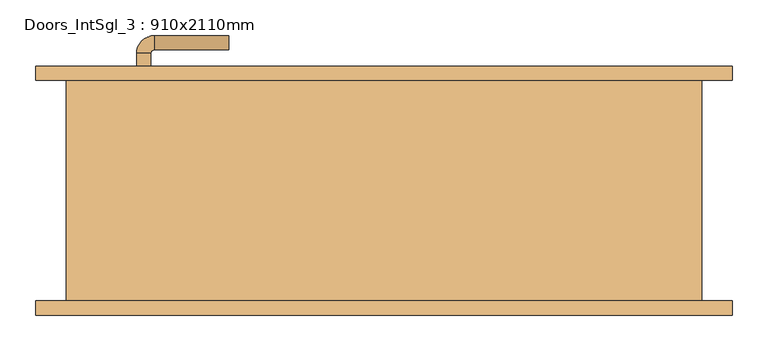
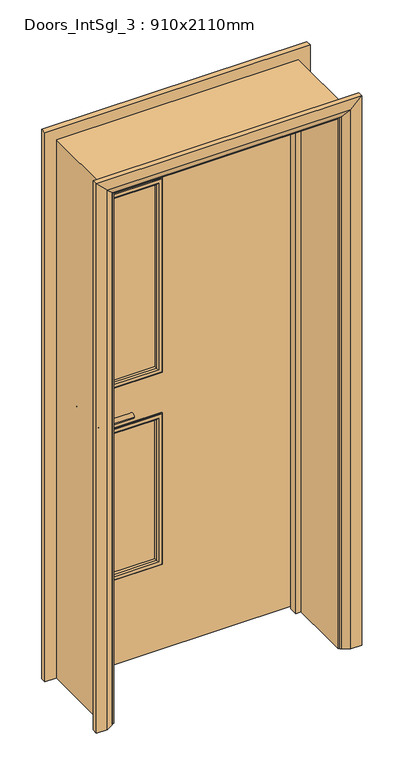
"""IFC4 building model written with IfcOpenShell, lengths in millimetres: door geometry, Doors_IntSgl_3 : 910x2110mm."""

from ifc_helpers import new_model, si_unit, point, frame, frame_2d, origin, place, context, project, spatial, polyline, circle_curve, ellipse_curve, trimmed, segment, composite_curve, outline, extrude, faceted_brep, source, transform, mapped, element, save
from ifc_brep_helpers import plane_surface, cylinder_surface, revolved_surface, advanced_brep


def doors_intsgl_3_910x2110mm_ed6625c4(model_context):
    return source(origin(), model_context, "Body", "SolidModel", [
        advanced_brep(
        [(-348.0, 109.0, 1000.0), (-328.0, 109.0, 1000.0), (-328.0, 79.0, 1000.0), (-348.0, 79.0, 1000.0), (-323.0, 74.0, 1000.0), (-323.0, 54.0, 1000.0), (-218.0, 54.0, 1000.0), (-218.0, 74.0, 1000.0)],
        [
            (0, 1, circle_curve(frame((-338.0, 109.0, 1000.0), z_axis=(0.0, 1.0, 0.0), x_axis=(1.0, 0.0, 0.0)), 10.0)),
            (1, 0, circle_curve(frame((-338.0, 109.0, 1000.0), z_axis=(0.0, 1.0, 0.0), x_axis=(1.0, 0.0, 0.0)), 10.0)),
            (1, 2),
            (2, 3, circle_curve(frame((-338.0, 79.0, 1000.0), z_axis=(0.0, 1.0, 0.0), x_axis=(1.0, 0.0, 0.0)), 10.0)),
            (3, 0),
            (3, 2, circle_curve(frame((-338.0, 79.0, 1000.0), z_axis=(0.0, 1.0, 0.0), x_axis=(1.0, 0.0, 0.0)), 10.0)),
            (4, 5, circle_curve(frame((-323.0, 64.0, 1000.0), z_axis=(-1.0, 0.0, 0.0), x_axis=(0.0, 1.0, 0.0)), 10.0)),
            (5, 3, circle_curve(frame((-323.0, 79.0, 1000.0), z_axis=(0.0, 0.0, -1.0), x_axis=(-1.0, 0.0, 0.0)), 25.0)),
            (2, 4, circle_curve(frame((-323.0, 79.0, 1000.0), z_axis=(0.0, 0.0, 1.0), x_axis=(-1.0, 0.0, 0.0)), 5.0)),
            (5, 4, circle_curve(frame((-323.0, 64.0, 1000.0), z_axis=(-1.0, 0.0, 0.0), x_axis=(0.0, 1.0, 0.0)), 10.0)),
            (6, 7, circle_curve(frame((-218.0, 64.0, 1000.0), z_axis=(1.0, 0.0, 0.0), x_axis=(0.0, 1.0, 0.0)), 10.0)),
            (7, 6, circle_curve(frame((-218.0, 64.0, 1000.0), z_axis=(1.0, 0.0, 0.0), x_axis=(0.0, 1.0, 0.0)), 10.0)),
            (4, 7),
            (6, 5),
        ],
        [
            plane_surface(frame((-338.0, 109.0, 1000.0), z_axis=(0.0, 1.0, 0.0), x_axis=(0.0, 0.0, 1.0))),
            cylinder_surface(frame((-338.0, 109.0, 1000.0), z_axis=(0.0, 1.0, 0.0), x_axis=(1.0, 0.0, 0.0)), 10.0),
            revolved_surface(trimmed(ellipse_curve(frame((-338.0, 79.0, 1000.0), z_axis=(0.0, -1.0, 0.0), x_axis=(1.0, 0.0, 0.0)), 10.0, 10.0), [point((-348.0, 79.0, 1000.0))], [point((-328.0, 79.0, 1000.0))], True, "CARTESIAN"), (-323.0, 79.0, 1000.0), (0.0, 0.0, -1.0)),
            revolved_surface(trimmed(ellipse_curve(frame((-338.0, 79.0, 1000.0), z_axis=(0.0, -1.0, 0.0), x_axis=(1.0, 0.0, 0.0)), 10.0, 10.0), [point((-328.0, 79.0, 1000.0))], [point((-348.0, 79.0, 1000.0))], True, "CARTESIAN"), (-323.0, 79.0, 1000.0), (0.0, 0.0, -1.0)),
            plane_surface(frame((-218.0, 64.0, 1000.0), z_axis=(1.0, 0.0, 0.0), x_axis=(0.0, 0.0, 1.0))),
            cylinder_surface(frame((-323.0, 64.0, 1000.0), z_axis=(-1.0, 0.0, 0.0), x_axis=(0.0, 1.0, 0.0)), 10.0),
        ],
        [
            (0, [[1, 2]]),
            (1, [[3, 4, 5, -2]]),
            (1, [[-5, 6, -3, -1]]),
            (2, [[7, 8, -4, 9]]),
            (3, [[10, -9, -6, -8]]),
            (4, [[11, 12]]),
            (5, [[13, -11, 14, -7]]),
            (5, [[-14, -12, -13, -10]]),
        ],
    ),
        extrude(outline(composite_curve([segment(trimmed(circle_curve(frame_2d((1000.0, -340.5)), 30.0), [point((1000.0, -370.5))], [point((1000.0, -310.5))], False, "CARTESIAN"), True, "CONTINUOUS"), segment(trimmed(circle_curve(frame_2d((1000.0, -340.5)), 30.0), [point((1000.0, -310.5))], [point((1000.0, -370.5))], False, "CARTESIAN"), True, "CONTINUOUS")], self_intersect=False)), frame((0.0, 109.0, 0.0), z_axis=(0.0, 1.0, 0.0), x_axis=(0.0, 0.0, 1.0)), (0.0, 0.0, 1.0), 8.0),
        advanced_brep(
        [(-348.0, 163.0, 1000.0), (-328.0, 163.0, 1000.0), (-348.0, 193.0, 1000.0), (-328.0, 193.0, 1000.0), (-323.0, 198.0, 1000.0), (-323.0, 218.0, 1000.0), (-218.0, 218.0, 1000.0), (-218.0, 198.0, 1000.0)],
        [
            (0, 1, circle_curve(frame((-338.0, 163.0, 1000.0), z_axis=(0.0, -1.0, 0.0), x_axis=(1.0, 0.0, 0.0)), 10.0)),
            (1, 0, circle_curve(frame((-338.0, 163.0, 1000.0), z_axis=(0.0, -1.0, 0.0), x_axis=(1.0, 0.0, 0.0)), 10.0)),
            (0, 2),
            (2, 3, circle_curve(frame((-338.0, 193.0, 1000.0), z_axis=(0.0, -1.0, 0.0), x_axis=(1.0, 0.0, 0.0)), 10.0)),
            (3, 1),
            (3, 2, circle_curve(frame((-338.0, 193.0, 1000.0), z_axis=(0.0, -1.0, 0.0), x_axis=(1.0, 0.0, 0.0)), 10.0)),
            (4, 3, circle_curve(frame((-323.0, 193.0, 1000.0), z_axis=(0.0, 0.0, 1.0), x_axis=(-1.0, 0.0, 0.0)), 5.0)),
            (2, 5, circle_curve(frame((-323.0, 193.0, 1000.0), z_axis=(0.0, 0.0, -1.0), x_axis=(-1.0, 0.0, 0.0)), 25.0)),
            (5, 4, circle_curve(frame((-323.0, 208.0, 1000.0), z_axis=(-1.0, 0.0, 0.0), x_axis=(0.0, -1.0, 0.0)), 10.0)),
            (4, 5, circle_curve(frame((-323.0, 208.0, 1000.0), z_axis=(-1.0, 0.0, 0.0), x_axis=(0.0, -1.0, 0.0)), 10.0)),
            (6, 7, circle_curve(frame((-218.0, 208.0, 1000.0), z_axis=(1.0, 0.0, 0.0), x_axis=(0.0, -1.0, 0.0)), 10.0)),
            (7, 6, circle_curve(frame((-218.0, 208.0, 1000.0), z_axis=(1.0, 0.0, 0.0), x_axis=(0.0, -1.0, 0.0)), 10.0)),
            (5, 6),
            (7, 4),
        ],
        [
            plane_surface(frame((-338.0, 163.0, 1000.0), z_axis=(0.0, -1.0, 0.0), x_axis=(0.0, 0.0, 1.0))),
            cylinder_surface(frame((-338.0, 163.0, 1000.0), z_axis=(0.0, -1.0, 0.0), x_axis=(1.0, 0.0, 0.0)), 10.0),
            revolved_surface(trimmed(ellipse_curve(frame((-338.0, 193.0, 1000.0), z_axis=(0.0, -1.0, 0.0), x_axis=(1.0, 0.0, 0.0)), 10.0, 10.0), [point((-348.0, 193.0, 1000.0))], [point((-328.0, 193.0, 1000.0))], True, "CARTESIAN"), (-323.0, 193.0, 1000.0), (0.0, 0.0, -1.0)),
            revolved_surface(trimmed(ellipse_curve(frame((-338.0, 193.0, 1000.0), z_axis=(0.0, -1.0, 0.0), x_axis=(1.0, 0.0, 0.0)), 10.0, 10.0), [point((-328.0, 193.0, 1000.0))], [point((-348.0, 193.0, 1000.0))], True, "CARTESIAN"), (-323.0, 193.0, 1000.0), (0.0, 0.0, -1.0)),
            plane_surface(frame((-218.0, 208.0, 1000.0), z_axis=(1.0, 0.0, 0.0), x_axis=(0.0, 0.0, 1.0))),
            cylinder_surface(frame((-323.0, 208.0, 1000.0), z_axis=(-1.0, 0.0, 0.0), x_axis=(0.0, -1.0, 0.0)), 10.0),
        ],
        [
            (0, [[1, 2]]),
            (1, [[-1, 3, 4, 5]]),
            (1, [[-2, -5, 6, -3]]),
            (2, [[7, -4, 8, 9]]),
            (3, [[-8, -6, -7, 10]]),
            (4, [[11, 12]]),
            (5, [[-9, 13, -12, 14]]),
            (5, [[-10, -14, -11, -13]]),
        ],
    ),
        extrude(outline(composite_curve([segment(trimmed(circle_curve(frame_2d((1000.0, -340.5)), 30.0), [point((1000.0, -370.5))], [point((1000.0, -310.5))], False, "CARTESIAN"), True, "CONTINUOUS"), segment(trimmed(circle_curve(frame_2d((1000.0, -340.5)), 30.0), [point((1000.0, -310.5))], [point((1000.0, -370.5))], False, "CARTESIAN"), True, "CONTINUOUS")], self_intersect=False)), frame((0.0, 155.0, 0.0), z_axis=(0.0, 1.0, 0.0), x_axis=(0.0, 0.0, 1.0)), (0.0, 0.0, 1.0), 8.0),
        extrude(outline(polyline([(2068.0, -413.0), (8.0, -413.0), (8.0, 413.0), (2068.0, 413.0), (2068.0, -413.0)]), holes=[polyline([(1843.0, -88.0), (1100.0, -88.0), (1100.0, -288.0), (1843.0, -288.0), (1843.0, -88.0)]), polyline([(925.0, -288.0), (925.0, -88.0), (350.0, -88.0), (350.0, -288.0), (925.0, -288.0)])]), frame((0.0, 117.0, 0.0), z_axis=(0.0, 1.0, 0.0), x_axis=(0.0, 0.0, 1.0)), (0.0, 0.0, 1.0), 38.0),
        advanced_brep(
        [(490.0, 175.0, 0.0), (490.0, 155.0, 0.0), (420.0, 155.0, 0.0), (424.0, 161.0, 0.0), (450.0, 175.0, 0.0), (490.0, 175.0, 2145.0), (490.0, 155.0, 2145.0), (-490.0, 155.0, 2145.0), (-490.0, 155.0, 0.0), (-420.0, 155.0, 0.0), (-420.0, 155.0, 2075.0), (420.0, 155.0, 2075.0), (424.0, 161.0, 2079.0), (450.0, 175.0, 2105.0), (-450.0, 175.0, 2105.0), (-450.0, 175.0, 0.0), (-490.0, 175.0, 0.0), (-490.0, 175.0, 2145.0), (-424.0, 161.0, 0.0), (-424.0, 161.0, 2079.0)],
        [
            (0, 1),
            (1, 2),
            (2, 3, circle_curve(frame((428.0, 154.0, 0.0), z_axis=(0.0, 0.0, -1.0), x_axis=(1.0, 0.0, 0.0)), 8.0622577)),
            (3, 4),
            (4, 0),
            (0, 5),
            (5, 6),
            (6, 1),
            (6, 7),
            (7, 8),
            (8, 9),
            (9, 10),
            (10, 11),
            (11, 2),
            (11, 12, ellipse_curve(frame((428.0, 154.0, 2083.0), z_axis=(0.7071067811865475, 0.0, -0.7071067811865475), x_axis=(-0.7071067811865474, 0.0, -0.7071067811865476)), 11.4017543, 8.0622577)),
            (12, 3),
            (12, 13),
            (13, 4),
            (13, 14),
            (14, 15),
            (15, 16),
            (16, 17),
            (17, 5),
            (7, 17),
            (16, 8),
            (15, 18),
            (18, 9, circle_curve(frame((-428.0, 154.0, 0.0), z_axis=(0.0, 0.0, -1.0), x_axis=(-1.0, 0.0, 0.0)), 8.0622577)),
            (19, 10, ellipse_curve(frame((-428.0, 154.0, 2083.0), z_axis=(-0.7071067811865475, 0.0, -0.7071067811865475), x_axis=(-0.7071067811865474, 0.0, 0.7071067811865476)), 11.4017543, 8.0622577)),
            (18, 19),
            (14, 19),
            (19, 12),
        ],
        [
            plane_surface(frame((420.0, 155.0, 0.0), z_axis=(0.0, 0.0, -1.0), x_axis=(0.0, -1.0, 0.0))),
            plane_surface(frame((490.0, 175.0, 0.0), z_axis=(1.0, 0.0, 0.0), x_axis=(0.0, 0.0, 1.0))),
            plane_surface(frame((490.0, 155.0, 0.0), z_axis=(0.0, -1.0, 0.0), x_axis=(0.0, 0.0, 1.0))),
            cylinder_surface(frame((428.0, 154.0, 0.0), z_axis=(0.0, 0.0, -1.0), x_axis=(1.0, 0.0, 0.0)), 8.0622577),
            plane_surface(frame((424.0, 161.0, 0.0), z_axis=(-0.4740998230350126, 0.8804710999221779, 0.0), x_axis=(0.0, 0.0, 1.0))),
            plane_surface(frame((450.0, 175.0, 0.0), z_axis=(0.0, 1.0, 0.0), x_axis=(0.0, 0.0, 1.0))),
            plane_surface(frame((-490.0, 175.0, 2145.0), z_axis=(-1.0, 0.0, 0.0), x_axis=(0.0, 0.0, -1.0))),
            plane_surface(frame((-420.0, 155.0, 0.0), z_axis=(0.0, 0.0, -1.0), x_axis=(0.0, -1.0, 0.0))),
            cylinder_surface(frame((-428.0, 154.0, 2075.0), z_axis=(0.0, 0.0, 1.0), x_axis=(-1.0, 0.0, 0.0)), 8.0622577),
            plane_surface(frame((-424.0, 161.0, 2079.0), z_axis=(0.4740998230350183, 0.8804710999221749, 0.0), x_axis=(0.0, 0.0, -1.0))),
            plane_surface(frame((490.0, 175.0, 2145.0), z_axis=(0.0, 0.0, 1.0), x_axis=(-1.0, 0.0, 0.0))),
            cylinder_surface(frame((420.0, 154.0, 2083.0), z_axis=(1.0, 0.0, 0.0), x_axis=(0.0, 0.0, 1.0)), 8.0622577),
            plane_surface(frame((424.0, 161.0, 2079.0), z_axis=(0.0, 0.8804710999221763, -0.4740998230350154), x_axis=(-1.0, 0.0, 0.0))),
        ],
        [
            (0, [[1, 2, 3, 4, 5]]),
            (1, [[-1, 6, 7, 8]]),
            (2, [[-2, -8, 9, 10, 11, 12, 13, 14]]),
            (3, [[-3, -14, 15, 16]]),
            (4, [[-4, -16, 17, 18]]),
            (5, [[-5, -18, 19, 20, 21, 22, 23, -6]]),
            (6, [[24, -22, 25, -10]]),
            (7, [[-21, 26, 27, -11, -25]]),
            (8, [[28, -12, -27, 29]]),
            (9, [[30, -29, -26, -20]]),
            (10, [[-7, -23, -24, -9]]),
            (11, [[-15, -13, -28, 31]]),
            (12, [[-17, -31, -30, -19]]),
        ],
    ),
        extrude(outline(polyline([(0.0, -415.0), (0.0, -396.0), (2051.0, -396.0), (2051.0, 396.0), (0.0, 396.0), (0.0, 415.0), (2070.0, 415.0), (2070.0, -415.0), (0.0, -415.0)])), frame((0.0, 83.0, 0.0), z_axis=(0.0, 1.0, 0.0), x_axis=(0.0, 0.0, 1.0)), (0.0, 0.0, 1.0), 32.0),
        advanced_brep(
        [(-490.0, -175.0, 0.0), (-490.0, -155.0, 0.0), (-420.0, -155.0, 0.0), (-424.0, -161.0, 0.0), (-450.0, -175.0, 0.0), (-490.0, -175.0, 2145.0), (-490.0, -155.0, 2145.0), (-420.0, -155.0, 2075.0), (-424.0, -161.0, 2079.0), (-450.0, -175.0, 2105.0), (490.0, -175.0, 0.0), (450.0, -175.0, 0.0), (424.0, -161.0, 0.0), (420.0, -155.0, 0.0), (490.0, -155.0, 0.0), (490.0, -175.0, 2145.0), (450.0, -175.0, 2105.0), (424.0, -161.0, 2079.0), (420.0, -155.0, 2075.0), (490.0, -155.0, 2145.0)],
        [
            (0, 1),
            (1, 2),
            (2, 3, circle_curve(frame((-428.0, -154.0, 0.0), z_axis=(0.0, 0.0, -1.0), x_axis=(-1.0, 0.0, 0.0)), 8.0622577)),
            (3, 4),
            (4, 0),
            (0, 5),
            (5, 6),
            (6, 1),
            (6, 7),
            (7, 2),
            (7, 8, ellipse_curve(frame((-428.0, -154.0, 2083.0), z_axis=(-0.7071067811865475, 0.0, -0.7071067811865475), x_axis=(0.7071067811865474, 0.0, -0.7071067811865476)), 11.4017543, 8.0622577)),
            (8, 3),
            (8, 9),
            (9, 4),
            (9, 5),
            (10, 11),
            (11, 12),
            (12, 13, circle_curve(frame((428.0, -154.0, 0.0), z_axis=(0.0, 0.0, -1.0), x_axis=(1.0, 0.0, 0.0)), 8.0622577)),
            (13, 14),
            (14, 10),
            (15, 16),
            (16, 11),
            (10, 15),
            (16, 17),
            (17, 12),
            (17, 18, ellipse_curve(frame((428.0, -154.0, 2083.0), z_axis=(0.7071067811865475, 0.0, -0.7071067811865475), x_axis=(0.7071067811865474, 0.0, 0.7071067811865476)), 11.4017543, 8.0622577)),
            (18, 13),
            (18, 19),
            (19, 14),
            (19, 15),
            (5, 15),
            (19, 6),
            (18, 7),
            (17, 8),
            (16, 9),
        ],
        [
            plane_surface(frame((-420.0, -227.8010989, 0.0), z_axis=(0.0, 0.0, -1.0), x_axis=(1.0, 0.0, 0.0))),
            plane_surface(frame((-490.0, -175.0, 0.0), z_axis=(-1.0, 0.0, 0.0), x_axis=(0.0, 0.0, 1.0))),
            plane_surface(frame((-490.0, -155.0, 0.0), z_axis=(0.0, 1.0, 0.0), x_axis=(0.0, 0.0, 1.0))),
            cylinder_surface(frame((-428.0, -154.0, 0.0), z_axis=(0.0, 0.0, -1.0), x_axis=(-1.0, 0.0, 0.0)), 8.0622577),
            plane_surface(frame((-424.0, -161.0, 0.0), z_axis=(0.4740998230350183, -0.8804710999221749, 0.0), x_axis=(0.0, 0.0, 1.0))),
            plane_surface(frame((-450.0, -175.0, 0.0), z_axis=(0.0, -1.0, 0.0), x_axis=(0.0, 0.0, 1.0))),
            plane_surface(frame((420.0, -227.8010989, 0.0), z_axis=(0.0, 0.0, -1.0), x_axis=(-1.0, 0.0, 0.0))),
            plane_surface(frame((450.0, -175.0, 2105.0), z_axis=(0.0, -1.0, 0.0), x_axis=(0.0, 0.0, -1.0))),
            plane_surface(frame((424.0, -161.0, 2079.0), z_axis=(-0.4740998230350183, -0.8804710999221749, 0.0), x_axis=(0.0, 0.0, -1.0))),
            cylinder_surface(frame((428.0, -154.0, 2075.0), z_axis=(0.0, 0.0, 1.0), x_axis=(1.0, 0.0, 0.0)), 8.0622577),
            plane_surface(frame((490.0, -155.0, 2145.0), z_axis=(0.0, 1.0, 0.0), x_axis=(0.0, 0.0, -1.0))),
            plane_surface(frame((490.0, -175.0, 2145.0), z_axis=(1.0, 0.0, 0.0), x_axis=(0.0, 0.0, -1.0))),
            plane_surface(frame((-490.0, -175.0, 2145.0), z_axis=(0.0, 0.0, 1.0), x_axis=(1.0, 0.0, 0.0))),
            plane_surface(frame((-490.0, -155.0, 2145.0), z_axis=(0.0, 1.0, 0.0), x_axis=(1.0, 0.0, 0.0))),
            cylinder_surface(frame((-420.0, -154.0, 2083.0), z_axis=(-1.0, 0.0, 0.0), x_axis=(0.0, 0.0, 1.0)), 8.0622577),
            plane_surface(frame((-424.0, -161.0, 2079.0), z_axis=(0.0, -0.8804710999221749, -0.4740998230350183), x_axis=(1.0, 0.0, 0.0))),
            plane_surface(frame((-450.0, -175.0, 2105.0), z_axis=(0.0, -1.0, 0.0), x_axis=(1.0, 0.0, 0.0))),
        ],
        [
            (0, [[1, 2, 3, 4, 5]]),
            (1, [[-1, 6, 7, 8]]),
            (2, [[-2, -8, 9, 10]]),
            (3, [[-3, -10, 11, 12]]),
            (4, [[-4, -12, 13, 14]]),
            (5, [[-5, -14, 15, -6]]),
            (6, [[16, 17, 18, 19, 20]]),
            (7, [[21, 22, -16, 23]]),
            (8, [[24, 25, -17, -22]]),
            (9, [[26, 27, -18, -25]]),
            (10, [[28, 29, -19, -27]]),
            (11, [[30, -23, -20, -29]]),
            (12, [[-7, 31, -30, 32]]),
            (13, [[-9, -32, -28, 33]]),
            (14, [[-11, -33, -26, 34]]),
            (15, [[-13, -34, -24, 35]]),
            (16, [[-15, -35, -21, -31]]),
        ],
    ),
        faceted_brep([(-415.0, 155.0, 0.0), (-415.0, -155.0, 0.0), (-447.0, -155.0, 0.0), (-447.0, 155.0, 0.0), (-415.0, 155.0, 2070.0), (-415.0, -155.0, 2070.0), (-447.0, -155.0, 2102.0), (-447.0, 155.0, 2102.0), (415.0, 155.0, 0.0), (447.0, 155.0, 0.0), (447.0, -155.0, 0.0), (415.0, -155.0, 0.0), (415.0, 155.0, 2070.0), (447.0, 155.0, 2102.0), (447.0, -155.0, 2102.0), (415.0, -155.0, 2070.0)], [[[0, 1, 2, 3]], [[1, 0, 4, 5]], [[2, 1, 5, 6]], [[3, 2, 6, 7]], [[0, 3, 7, 4]], [[8, 9, 10, 11]], [[12, 13, 9, 8]], [[13, 14, 10, 9]], [[14, 15, 11, 10]], [[15, 12, 8, 11]], [[5, 4, 12, 15]], [[6, 5, 15, 14]], [[7, 6, 14, 13]], [[4, 7, 13, 12]]]),
        advanced_brep(
        [(-88.0, 127.0, 925.0), (-88.0, 117.0, 925.0), (-88.0, 117.0, 350.0), (-88.0, 127.0, 350.0), (-100.0, 116.0, 913.0), (-100.0, 127.0, 913.0), (-100.0, 127.0, 362.0), (-100.0, 116.0, 362.0), (-95.0, 111.0, 918.0), (-95.0, 111.0, 357.0), (-80.0, 113.0, 933.0), (-82.0, 111.0, 931.0), (-82.0, 111.0, 344.0), (-80.0, 113.0, 342.0), (-80.0, 117.0, 933.0), (-80.0, 117.0, 342.0), (-288.0, 117.0, 350.0), (-288.0, 127.0, 350.0), (-276.0, 127.0, 362.0), (-276.0, 116.0, 362.0), (-281.0, 111.0, 357.0), (-294.0, 111.0, 344.0), (-296.0, 113.0, 342.0), (-296.0, 117.0, 342.0), (-288.0, 117.0, 925.0), (-288.0, 127.0, 925.0), (-276.0, 127.0, 913.0), (-276.0, 116.0, 913.0), (-281.0, 111.0, 918.0), (-294.0, 111.0, 931.0), (-296.0, 113.0, 933.0), (-296.0, 117.0, 933.0)],
        [
            (0, 1),
            (1, 2),
            (2, 3),
            (3, 0),
            (4, 5),
            (5, 6),
            (6, 7),
            (7, 4),
            (8, 4, ellipse_curve(frame((-95.0, 116.0, 918.0), z_axis=(0.7071067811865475, 0.0, -0.7071067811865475), x_axis=(0.7071067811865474, 0.0, 0.7071067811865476)), 7.0710678, 5.0)),
            (7, 9, ellipse_curve(frame((-95.0, 116.0, 357.0), z_axis=(0.7071067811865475, 0.0, 0.7071067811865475), x_axis=(-0.7071067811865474, 0.0, 0.7071067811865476)), 7.0710678, 5.0)),
            (9, 8),
            (10, 11, ellipse_curve(frame((-82.0, 113.0, 931.0), z_axis=(0.7071067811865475, 0.0, -0.7071067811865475), x_axis=(0.7071067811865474, 0.0, 0.7071067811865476)), 2.8284271, 2.0)),
            (11, 12),
            (12, 13, ellipse_curve(frame((-82.0, 113.0, 344.0), z_axis=(0.7071067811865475, 0.0, 0.7071067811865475), x_axis=(-0.7071067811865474, 0.0, 0.7071067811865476)), 2.8284271, 2.0)),
            (13, 10),
            (14, 10),
            (13, 15),
            (15, 14),
            (2, 16),
            (16, 17),
            (17, 3),
            (6, 18),
            (18, 19),
            (19, 7),
            (19, 20, ellipse_curve(frame((-281.0, 116.0, 357.0), z_axis=(0.7071067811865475, 0.0, -0.7071067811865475), x_axis=(0.7071067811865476, 0.0, 0.7071067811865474)), 7.0710678, 5.0)),
            (20, 9),
            (12, 21),
            (21, 22, ellipse_curve(frame((-294.0, 113.0, 344.0), z_axis=(0.7071067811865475, 0.0, -0.7071067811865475), x_axis=(0.7071067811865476, 0.0, 0.7071067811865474)), 2.8284271, 2.0)),
            (22, 13),
            (22, 23),
            (23, 15),
            (16, 24),
            (24, 25),
            (25, 17),
            (18, 26),
            (26, 27),
            (27, 19),
            (27, 28, ellipse_curve(frame((-281.0, 116.0, 918.0), z_axis=(-0.7071067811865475, 0.0, -0.7071067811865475), x_axis=(0.7071067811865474, 0.0, -0.7071067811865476)), 7.0710678, 5.0)),
            (28, 20),
            (21, 29),
            (29, 30, ellipse_curve(frame((-294.0, 113.0, 931.0), z_axis=(-0.7071067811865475, 0.0, -0.7071067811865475), x_axis=(0.7071067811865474, 0.0, -0.7071067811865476)), 2.8284271, 2.0)),
            (30, 22),
            (30, 31),
            (31, 23),
            (31, 14),
            (1, 24),
            (0, 25),
            (5, 26),
            (4, 27),
            (8, 28),
            (11, 29),
            (10, 30),
        ],
        [
            plane_surface(frame((-88.0, 117.0, 925.0), z_axis=(1.0, 0.0, 0.0), x_axis=(0.0, 0.0, -1.0))),
            plane_surface(frame((-100.0, 127.0, 913.0), z_axis=(-1.0, 0.0, 0.0), x_axis=(0.0, 0.0, -1.0))),
            cylinder_surface(frame((-95.0, 116.0, 925.0), z_axis=(0.0, 0.0, 1.0), x_axis=(1.0, 0.0, 0.0)), 5.0),
            cylinder_surface(frame((-82.0, 113.0, 925.0), z_axis=(0.0, 0.0, 1.0), x_axis=(1.0, 0.0, 0.0)), 2.0),
            plane_surface(frame((-80.0, 113.0, 933.0), z_axis=(1.0, 0.0, 0.0), x_axis=(0.0, 0.0, -1.0))),
            plane_surface(frame((-88.0, 117.0, 350.0), z_axis=(0.0, 0.0, -1.0), x_axis=(-1.0, 0.0, 0.0))),
            plane_surface(frame((-100.0, 127.0, 362.0), z_axis=(0.0, 0.0, 1.0), x_axis=(-1.0, 0.0, 0.0))),
            cylinder_surface(frame((-88.0, 116.0, 357.0), z_axis=(1.0, 0.0, 0.0), x_axis=(0.0, 0.0, -1.0)), 5.0),
            cylinder_surface(frame((-88.0, 113.0, 344.0), z_axis=(1.0, 0.0, 0.0), x_axis=(0.0, 0.0, -1.0)), 2.0),
            plane_surface(frame((-80.0, 113.0, 342.0), z_axis=(0.0, 0.0, -1.0), x_axis=(-1.0, 0.0, 0.0))),
            plane_surface(frame((-288.0, 117.0, 350.0), z_axis=(-1.0, 0.0, 0.0), x_axis=(0.0, 0.0, 1.0))),
            plane_surface(frame((-276.0, 127.0, 362.0), z_axis=(1.0, 0.0, 0.0), x_axis=(0.0, 0.0, 1.0))),
            cylinder_surface(frame((-281.0, 116.0, 350.0), z_axis=(0.0, 0.0, -1.0), x_axis=(-1.0, 0.0, 0.0)), 5.0),
            cylinder_surface(frame((-294.0, 113.0, 350.0), z_axis=(0.0, 0.0, -1.0), x_axis=(-1.0, 0.0, 0.0)), 2.0),
            plane_surface(frame((-296.0, 113.0, 342.0), z_axis=(-1.0, 0.0, 0.0), x_axis=(0.0, 0.0, 1.0))),
            plane_surface(frame((-296.0, 117.0, 933.0), z_axis=(0.0, 1.0, 0.0), x_axis=(1.0, 0.0, 0.0))),
            plane_surface(frame((-288.0, 117.0, 925.0), z_axis=(0.0, 0.0, 1.0), x_axis=(1.0, 0.0, 0.0))),
            plane_surface(frame((-288.0, 127.0, 925.0), z_axis=(0.0, 1.0, 0.0), x_axis=(1.0, 0.0, 0.0))),
            plane_surface(frame((-276.0, 127.0, 913.0), z_axis=(0.0, 0.0, -1.0), x_axis=(1.0, 0.0, 0.0))),
            cylinder_surface(frame((-288.0, 116.0, 918.0), z_axis=(-1.0, 0.0, 0.0), x_axis=(0.0, 0.0, 1.0)), 5.0),
            plane_surface(frame((-281.0, 111.0, 918.0), z_axis=(0.0, -1.0, 0.0), x_axis=(1.0, 0.0, 0.0))),
            cylinder_surface(frame((-288.0, 113.0, 931.0), z_axis=(-1.0, 0.0, 0.0), x_axis=(0.0, 0.0, 1.0)), 2.0),
            plane_surface(frame((-296.0, 113.0, 933.0), z_axis=(0.0, 0.0, 1.0), x_axis=(1.0, 0.0, 0.0))),
        ],
        [
            (0, [[1, 2, 3, 4]]),
            (1, [[5, 6, 7, 8]]),
            (2, [[9, -8, 10, 11]]),
            (3, [[12, 13, 14, 15]]),
            (4, [[16, -15, 17, 18]]),
            (5, [[-3, 19, 20, 21]]),
            (6, [[-7, 22, 23, 24]]),
            (7, [[-10, -24, 25, 26]]),
            (8, [[-14, 27, 28, 29]]),
            (9, [[-17, -29, 30, 31]]),
            (10, [[-20, 32, 33, 34]]),
            (11, [[-23, 35, 36, 37]]),
            (12, [[-25, -37, 38, 39]]),
            (13, [[-28, 40, 41, 42]]),
            (14, [[-30, -42, 43, 44]]),
            (15, [[-31, -44, 45, -18], [46, -32, -19, -2]]),
            (16, [[-33, -46, -1, 47]]),
            (17, [[-21, -34, -47, -4], [48, -35, -22, -6]]),
            (18, [[-36, -48, -5, 49]]),
            (19, [[-38, -49, -9, 50]]),
            (20, [[51, -40, -27, -13], [-26, -39, -50, -11]]),
            (21, [[-41, -51, -12, 52]]),
            (22, [[-43, -52, -16, -45]]),
        ],
    ),
        advanced_brep(
        [(-288.0, 145.0, 925.0), (-288.0, 155.0, 925.0), (-288.0, 155.0, 350.0), (-288.0, 145.0, 350.0), (-276.0, 156.0, 913.0), (-276.0, 145.0, 913.0), (-276.0, 145.0, 362.0), (-276.0, 156.0, 362.0), (-281.0, 161.0, 918.0), (-281.0, 161.0, 357.0), (-296.0, 159.0, 933.0), (-294.0, 161.0, 931.0), (-294.0, 161.0, 344.0), (-296.0, 159.0, 342.0), (-296.0, 155.0, 933.0), (-296.0, 155.0, 342.0), (-88.0, 155.0, 350.0), (-88.0, 145.0, 350.0), (-100.0, 145.0, 362.0), (-100.0, 156.0, 362.0), (-95.0, 161.0, 357.0), (-82.0, 161.0, 344.0), (-80.0, 159.0, 342.0), (-80.0, 155.0, 342.0), (-88.0, 155.0, 925.0), (-88.0, 145.0, 925.0), (-100.0, 145.0, 913.0), (-100.0, 156.0, 913.0), (-95.0, 161.0, 918.0), (-82.0, 161.0, 931.0), (-80.0, 159.0, 933.0), (-80.0, 155.0, 933.0)],
        [
            (0, 1),
            (1, 2),
            (2, 3),
            (3, 0),
            (4, 5),
            (5, 6),
            (6, 7),
            (7, 4),
            (8, 4, ellipse_curve(frame((-281.0, 156.0, 918.0), z_axis=(-0.7071067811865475, 0.0, -0.7071067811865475), x_axis=(-0.7071067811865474, 0.0, 0.7071067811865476)), 7.0710678, 5.0)),
            (7, 9, ellipse_curve(frame((-281.0, 156.0, 357.0), z_axis=(-0.7071067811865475, 0.0, 0.7071067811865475), x_axis=(0.7071067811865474, 0.0, 0.7071067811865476)), 7.0710678, 5.0)),
            (9, 8),
            (10, 11, ellipse_curve(frame((-294.0, 159.0, 931.0), z_axis=(-0.7071067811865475, 0.0, -0.7071067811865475), x_axis=(-0.7071067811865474, 0.0, 0.7071067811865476)), 2.8284271, 2.0)),
            (11, 12),
            (12, 13, ellipse_curve(frame((-294.0, 159.0, 344.0), z_axis=(-0.7071067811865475, 0.0, 0.7071067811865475), x_axis=(0.7071067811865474, 0.0, 0.7071067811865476)), 2.8284271, 2.0)),
            (13, 10),
            (14, 10),
            (13, 15),
            (15, 14),
            (2, 16),
            (16, 17),
            (17, 3),
            (6, 18),
            (18, 19),
            (19, 7),
            (19, 20, ellipse_curve(frame((-95.0, 156.0, 357.0), z_axis=(-0.7071067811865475, 0.0, -0.7071067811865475), x_axis=(-0.7071067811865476, 0.0, 0.7071067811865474)), 7.0710678, 5.0)),
            (20, 9),
            (12, 21),
            (21, 22, ellipse_curve(frame((-82.0, 159.0, 344.0), z_axis=(-0.7071067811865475, 0.0, -0.7071067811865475), x_axis=(-0.7071067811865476, 0.0, 0.7071067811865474)), 2.8284271, 2.0)),
            (22, 13),
            (22, 23),
            (23, 15),
            (16, 24),
            (24, 25),
            (25, 17),
            (18, 26),
            (26, 27),
            (27, 19),
            (27, 28, ellipse_curve(frame((-95.0, 156.0, 918.0), z_axis=(0.7071067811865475, 0.0, -0.7071067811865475), x_axis=(-0.7071067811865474, 0.0, -0.7071067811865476)), 7.0710678, 5.0)),
            (28, 20),
            (21, 29),
            (29, 30, ellipse_curve(frame((-82.0, 159.0, 931.0), z_axis=(0.7071067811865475, 0.0, -0.7071067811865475), x_axis=(-0.7071067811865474, 0.0, -0.7071067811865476)), 2.8284271, 2.0)),
            (30, 22),
            (30, 31),
            (31, 23),
            (31, 14),
            (1, 24),
            (0, 25),
            (5, 26),
            (4, 27),
            (8, 28),
            (11, 29),
            (10, 30),
        ],
        [
            plane_surface(frame((-288.0, 155.0, 925.0), z_axis=(-1.0, 0.0, 0.0), x_axis=(0.0, 0.0, -1.0))),
            plane_surface(frame((-276.0, 145.0, 913.0), z_axis=(1.0, 0.0, 0.0), x_axis=(0.0, 0.0, -1.0))),
            cylinder_surface(frame((-281.0, 156.0, 925.0), z_axis=(0.0, 0.0, 1.0), x_axis=(-1.0, 0.0, 0.0)), 5.0),
            cylinder_surface(frame((-294.0, 159.0, 925.0), z_axis=(0.0, 0.0, 1.0), x_axis=(-1.0, 0.0, 0.0)), 2.0),
            plane_surface(frame((-296.0, 159.0, 933.0), z_axis=(-1.0, 0.0, 0.0), x_axis=(0.0, 0.0, -1.0))),
            plane_surface(frame((-288.0, 155.0, 350.0), z_axis=(0.0, 0.0, -1.0), x_axis=(1.0, 0.0, 0.0))),
            plane_surface(frame((-276.0, 145.0, 362.0), z_axis=(0.0, 0.0, 1.0), x_axis=(1.0, 0.0, 0.0))),
            cylinder_surface(frame((-288.0, 156.0, 357.0), z_axis=(-1.0, 0.0, 0.0), x_axis=(0.0, 0.0, -1.0)), 5.0),
            cylinder_surface(frame((-288.0, 159.0, 344.0), z_axis=(-1.0, 0.0, 0.0), x_axis=(0.0, 0.0, -1.0)), 2.0),
            plane_surface(frame((-296.0, 159.0, 342.0), z_axis=(0.0, 0.0, -1.0), x_axis=(1.0, 0.0, 0.0))),
            plane_surface(frame((-88.0, 155.0, 350.0), z_axis=(1.0, 0.0, 0.0), x_axis=(0.0, 0.0, 1.0))),
            plane_surface(frame((-100.0, 145.0, 362.0), z_axis=(-1.0, 0.0, 0.0), x_axis=(0.0, 0.0, 1.0))),
            cylinder_surface(frame((-95.0, 156.0, 350.0), z_axis=(0.0, 0.0, -1.0), x_axis=(1.0, 0.0, 0.0)), 5.0),
            cylinder_surface(frame((-82.0, 159.0, 350.0), z_axis=(0.0, 0.0, -1.0), x_axis=(1.0, 0.0, 0.0)), 2.0),
            plane_surface(frame((-80.0, 159.0, 342.0), z_axis=(1.0, 0.0, 0.0), x_axis=(0.0, 0.0, 1.0))),
            plane_surface(frame((-80.0, 155.0, 933.0), z_axis=(0.0, -1.0, 0.0), x_axis=(-1.0, 0.0, 0.0))),
            plane_surface(frame((-88.0, 155.0, 925.0), z_axis=(0.0, 0.0, 1.0), x_axis=(-1.0, 0.0, 0.0))),
            plane_surface(frame((-88.0, 145.0, 925.0), z_axis=(0.0, -1.0, 0.0), x_axis=(-1.0, 0.0, 0.0))),
            plane_surface(frame((-100.0, 145.0, 913.0), z_axis=(0.0, 0.0, -1.0), x_axis=(-1.0, 0.0, 0.0))),
            cylinder_surface(frame((-88.0, 156.0, 918.0), z_axis=(1.0, 0.0, 0.0), x_axis=(0.0, 0.0, 1.0)), 5.0),
            plane_surface(frame((-95.0, 161.0, 918.0), z_axis=(0.0, 1.0, 0.0), x_axis=(-1.0, 0.0, 0.0))),
            cylinder_surface(frame((-88.0, 159.0, 931.0), z_axis=(1.0, 0.0, 0.0), x_axis=(0.0, 0.0, 1.0)), 2.0),
            plane_surface(frame((-80.0, 159.0, 933.0), z_axis=(0.0, 0.0, 1.0), x_axis=(-1.0, 0.0, 0.0))),
        ],
        [
            (0, [[1, 2, 3, 4]]),
            (1, [[5, 6, 7, 8]]),
            (2, [[9, -8, 10, 11]]),
            (3, [[12, 13, 14, 15]]),
            (4, [[16, -15, 17, 18]]),
            (5, [[-3, 19, 20, 21]]),
            (6, [[-7, 22, 23, 24]]),
            (7, [[-10, -24, 25, 26]]),
            (8, [[-14, 27, 28, 29]]),
            (9, [[-17, -29, 30, 31]]),
            (10, [[-20, 32, 33, 34]]),
            (11, [[-23, 35, 36, 37]]),
            (12, [[-25, -37, 38, 39]]),
            (13, [[-28, 40, 41, 42]]),
            (14, [[-30, -42, 43, 44]]),
            (15, [[-31, -44, 45, -18], [46, -32, -19, -2]]),
            (16, [[-33, -46, -1, 47]]),
            (17, [[-21, -34, -47, -4], [48, -35, -22, -6]]),
            (18, [[-36, -48, -5, 49]]),
            (19, [[-38, -49, -9, 50]]),
            (20, [[51, -40, -27, -13], [-26, -39, -50, -11]]),
            (21, [[-41, -51, -12, 52]]),
            (22, [[-43, -52, -16, -45]]),
        ],
    ),
        extrude(outline(polyline([(-288.0, 145.0), (-88.0, 145.0), (-88.0, 127.0), (-288.0, 127.0), (-288.0, 145.0)])), frame((0.0, 0.0, 1100.0), z_axis=(0.0, 0.0, 1.0), x_axis=(1.0, 0.0, 0.0)), (0.0, 0.0, 1.0), 743.0),
        extrude(outline(polyline([(-288.0, 145.0), (-88.0, 145.0), (-88.0, 127.0), (-288.0, 127.0), (-288.0, 145.0)])), frame((0.0, 0.0, 350.0), z_axis=(0.0, 0.0, 1.0), x_axis=(1.0, 0.0, 0.0)), (0.0, 0.0, 1.0), 575.0),
        advanced_brep(
        [(-88.0, 127.0, 1843.0), (-88.0, 117.0, 1843.0), (-88.0, 117.0, 1100.0), (-88.0, 127.0, 1100.0), (-100.0, 116.0, 1831.0), (-100.0, 127.0, 1831.0), (-100.0, 127.0, 1112.0), (-100.0, 116.0, 1112.0), (-95.0, 111.0, 1836.0), (-95.0, 111.0, 1107.0), (-80.0, 113.0, 1851.0), (-82.0, 111.0, 1849.0), (-82.0, 111.0, 1094.0), (-80.0, 113.0, 1092.0), (-80.0, 117.0, 1851.0), (-80.0, 117.0, 1092.0), (-288.0, 117.0, 1100.0), (-288.0, 127.0, 1100.0), (-276.0, 127.0, 1112.0), (-276.0, 116.0, 1112.0), (-281.0, 111.0, 1107.0), (-294.0, 111.0, 1094.0), (-296.0, 113.0, 1092.0), (-296.0, 117.0, 1092.0), (-288.0, 117.0, 1843.0), (-288.0, 127.0, 1843.0), (-276.0, 127.0, 1831.0), (-276.0, 116.0, 1831.0), (-281.0, 111.0, 1836.0), (-294.0, 111.0, 1849.0), (-296.0, 113.0, 1851.0), (-296.0, 117.0, 1851.0)],
        [
            (0, 1),
            (1, 2),
            (2, 3),
            (3, 0),
            (4, 5),
            (5, 6),
            (6, 7),
            (7, 4),
            (8, 4, ellipse_curve(frame((-95.0, 116.0, 1836.0), z_axis=(0.7071067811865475, 0.0, -0.7071067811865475), x_axis=(0.7071067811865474, 0.0, 0.7071067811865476)), 7.0710678, 5.0)),
            (7, 9, ellipse_curve(frame((-95.0, 116.0, 1107.0), z_axis=(0.7071067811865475, 0.0, 0.7071067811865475), x_axis=(-0.7071067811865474, 0.0, 0.7071067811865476)), 7.0710678, 5.0)),
            (9, 8),
            (10, 11, ellipse_curve(frame((-82.0, 113.0, 1849.0), z_axis=(0.7071067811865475, 0.0, -0.7071067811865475), x_axis=(0.7071067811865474, 0.0, 0.7071067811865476)), 2.8284271, 2.0)),
            (11, 12),
            (12, 13, ellipse_curve(frame((-82.0, 113.0, 1094.0), z_axis=(0.7071067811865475, 0.0, 0.7071067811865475), x_axis=(-0.7071067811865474, 0.0, 0.7071067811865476)), 2.8284271, 2.0)),
            (13, 10),
            (14, 10),
            (13, 15),
            (15, 14),
            (2, 16),
            (16, 17),
            (17, 3),
            (6, 18),
            (18, 19),
            (19, 7),
            (19, 20, ellipse_curve(frame((-281.0, 116.0, 1107.0), z_axis=(0.7071067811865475, 0.0, -0.7071067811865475), x_axis=(0.7071067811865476, 0.0, 0.7071067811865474)), 7.0710678, 5.0)),
            (20, 9),
            (12, 21),
            (21, 22, ellipse_curve(frame((-294.0, 113.0, 1094.0), z_axis=(0.7071067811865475, 0.0, -0.7071067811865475), x_axis=(0.7071067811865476, 0.0, 0.7071067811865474)), 2.8284271, 2.0)),
            (22, 13),
            (22, 23),
            (23, 15),
            (16, 24),
            (24, 25),
            (25, 17),
            (18, 26),
            (26, 27),
            (27, 19),
            (27, 28, ellipse_curve(frame((-281.0, 116.0, 1836.0), z_axis=(-0.7071067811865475, 0.0, -0.7071067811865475), x_axis=(0.7071067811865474, 0.0, -0.7071067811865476)), 7.0710678, 5.0)),
            (28, 20),
            (21, 29),
            (29, 30, ellipse_curve(frame((-294.0, 113.0, 1849.0), z_axis=(-0.7071067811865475, 0.0, -0.7071067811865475), x_axis=(0.7071067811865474, 0.0, -0.7071067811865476)), 2.8284271, 2.0)),
            (30, 22),
            (30, 31),
            (31, 23),
            (31, 14),
            (1, 24),
            (0, 25),
            (5, 26),
            (4, 27),
            (8, 28),
            (11, 29),
            (10, 30),
        ],
        [
            plane_surface(frame((-88.0, 117.0, 1843.0), z_axis=(1.0, 0.0, 0.0), x_axis=(0.0, 0.0, -1.0))),
            plane_surface(frame((-100.0, 127.0, 1831.0), z_axis=(-1.0, 0.0, 0.0), x_axis=(0.0, 0.0, -1.0))),
            cylinder_surface(frame((-95.0, 116.0, 1843.0), z_axis=(0.0, 0.0, 1.0), x_axis=(1.0, 0.0, 0.0)), 5.0),
            cylinder_surface(frame((-82.0, 113.0, 1843.0), z_axis=(0.0, 0.0, 1.0), x_axis=(1.0, 0.0, 0.0)), 2.0),
            plane_surface(frame((-80.0, 113.0, 1851.0), z_axis=(1.0, 0.0, 0.0), x_axis=(0.0, 0.0, -1.0))),
            plane_surface(frame((-88.0, 117.0, 1100.0), z_axis=(0.0, 0.0, -1.0), x_axis=(-1.0, 0.0, 0.0))),
            plane_surface(frame((-100.0, 127.0, 1112.0), z_axis=(0.0, 0.0, 1.0), x_axis=(-1.0, 0.0, 0.0))),
            cylinder_surface(frame((-88.0, 116.0, 1107.0), z_axis=(1.0, 0.0, 0.0), x_axis=(0.0, 0.0, -1.0)), 5.0),
            cylinder_surface(frame((-88.0, 113.0, 1094.0), z_axis=(1.0, 0.0, 0.0), x_axis=(0.0, 0.0, -1.0)), 2.0),
            plane_surface(frame((-80.0, 113.0, 1092.0), z_axis=(0.0, 0.0, -1.0), x_axis=(-1.0, 0.0, 0.0))),
            plane_surface(frame((-288.0, 117.0, 1100.0), z_axis=(-1.0, 0.0, 0.0), x_axis=(0.0, 0.0, 1.0))),
            plane_surface(frame((-276.0, 127.0, 1112.0), z_axis=(1.0, 0.0, 0.0), x_axis=(0.0, 0.0, 1.0))),
            cylinder_surface(frame((-281.0, 116.0, 1100.0), z_axis=(0.0, 0.0, -1.0), x_axis=(-1.0, 0.0, 0.0)), 5.0),
            cylinder_surface(frame((-294.0, 113.0, 1100.0), z_axis=(0.0, 0.0, -1.0), x_axis=(-1.0, 0.0, 0.0)), 2.0),
            plane_surface(frame((-296.0, 113.0, 1092.0), z_axis=(-1.0, 0.0, 0.0), x_axis=(0.0, 0.0, 1.0))),
            plane_surface(frame((-296.0, 117.0, 1851.0), z_axis=(0.0, 1.0, 0.0), x_axis=(1.0, 0.0, 0.0))),
            plane_surface(frame((-288.0, 117.0, 1843.0), z_axis=(0.0, 0.0, 1.0), x_axis=(1.0, 0.0, 0.0))),
            plane_surface(frame((-288.0, 127.0, 1843.0), z_axis=(0.0, 1.0, 0.0), x_axis=(1.0, 0.0, 0.0))),
            plane_surface(frame((-276.0, 127.0, 1831.0), z_axis=(0.0, 0.0, -1.0), x_axis=(1.0, 0.0, 0.0))),
            cylinder_surface(frame((-288.0, 116.0, 1836.0), z_axis=(-1.0, 0.0, 0.0), x_axis=(0.0, 0.0, 1.0)), 5.0),
            plane_surface(frame((-281.0, 111.0, 1836.0), z_axis=(0.0, -1.0, 0.0), x_axis=(1.0, 0.0, 0.0))),
            cylinder_surface(frame((-288.0, 113.0, 1849.0), z_axis=(-1.0, 0.0, 0.0), x_axis=(0.0, 0.0, 1.0)), 2.0),
            plane_surface(frame((-296.0, 113.0, 1851.0), z_axis=(0.0, 0.0, 1.0), x_axis=(1.0, 0.0, 0.0))),
        ],
        [
            (0, [[1, 2, 3, 4]]),
            (1, [[5, 6, 7, 8]]),
            (2, [[9, -8, 10, 11]]),
            (3, [[12, 13, 14, 15]]),
            (4, [[16, -15, 17, 18]]),
            (5, [[-3, 19, 20, 21]]),
            (6, [[-7, 22, 23, 24]]),
            (7, [[-10, -24, 25, 26]]),
            (8, [[-14, 27, 28, 29]]),
            (9, [[-17, -29, 30, 31]]),
            (10, [[-20, 32, 33, 34]]),
            (11, [[-23, 35, 36, 37]]),
            (12, [[-25, -37, 38, 39]]),
            (13, [[-28, 40, 41, 42]]),
            (14, [[-30, -42, 43, 44]]),
            (15, [[-31, -44, 45, -18], [46, -32, -19, -2]]),
            (16, [[-33, -46, -1, 47]]),
            (17, [[-21, -34, -47, -4], [48, -35, -22, -6]]),
            (18, [[-36, -48, -5, 49]]),
            (19, [[-38, -49, -9, 50]]),
            (20, [[51, -40, -27, -13], [-26, -39, -50, -11]]),
            (21, [[-41, -51, -12, 52]]),
            (22, [[-43, -52, -16, -45]]),
        ],
    ),
        advanced_brep(
        [(-80.0, 159.0, 1851.0), (-80.0, 155.0, 1851.0), (-80.0, 155.0, 1092.0), (-80.0, 159.0, 1092.0), (-82.0, 161.0, 1849.0), (-82.0, 161.0, 1094.0), (-100.0, 156.0, 1831.0), (-95.0, 161.0, 1836.0), (-95.0, 161.0, 1107.0), (-100.0, 156.0, 1112.0), (-100.0, 145.0, 1831.0), (-100.0, 145.0, 1112.0), (-88.0, 155.0, 1843.0), (-88.0, 145.0, 1843.0), (-88.0, 145.0, 1100.0), (-88.0, 155.0, 1100.0), (-296.0, 155.0, 1092.0), (-296.0, 159.0, 1092.0), (-294.0, 161.0, 1094.0), (-281.0, 161.0, 1107.0), (-276.0, 156.0, 1112.0), (-276.0, 145.0, 1112.0), (-288.0, 145.0, 1100.0), (-288.0, 155.0, 1100.0), (-296.0, 155.0, 1851.0), (-296.0, 159.0, 1851.0), (-294.0, 161.0, 1849.0), (-281.0, 161.0, 1836.0), (-276.0, 156.0, 1831.0), (-276.0, 145.0, 1831.0), (-288.0, 145.0, 1843.0), (-288.0, 155.0, 1843.0)],
        [
            (0, 1),
            (1, 2),
            (2, 3),
            (3, 0),
            (4, 0, ellipse_curve(frame((-82.0, 159.0, 1849.0), z_axis=(0.7071067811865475, 0.0, -0.7071067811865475), x_axis=(0.7071067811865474, 0.0, 0.7071067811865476)), 2.8284271, 2.0)),
            (3, 5, ellipse_curve(frame((-82.0, 159.0, 1094.0), z_axis=(0.7071067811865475, 0.0, 0.7071067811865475), x_axis=(-0.7071067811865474, 0.0, 0.7071067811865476)), 2.8284271, 2.0)),
            (5, 4),
            (6, 7, ellipse_curve(frame((-95.0, 156.0, 1836.0), z_axis=(0.7071067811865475, 0.0, -0.7071067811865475), x_axis=(0.7071067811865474, 0.0, 0.7071067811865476)), 7.0710678, 5.0)),
            (7, 8),
            (8, 9, ellipse_curve(frame((-95.0, 156.0, 1107.0), z_axis=(0.7071067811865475, 0.0, 0.7071067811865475), x_axis=(-0.7071067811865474, 0.0, 0.7071067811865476)), 7.0710678, 5.0)),
            (9, 6),
            (10, 6),
            (9, 11),
            (11, 10),
            (12, 13),
            (13, 14),
            (14, 15),
            (15, 12),
            (2, 16),
            (16, 17),
            (17, 3),
            (17, 18, ellipse_curve(frame((-294.0, 159.0, 1094.0), z_axis=(0.7071067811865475, 0.0, -0.7071067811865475), x_axis=(0.7071067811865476, 0.0, 0.7071067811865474)), 2.8284271, 2.0)),
            (18, 5),
            (8, 19),
            (19, 20, ellipse_curve(frame((-281.0, 156.0, 1107.0), z_axis=(0.7071067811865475, 0.0, -0.7071067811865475), x_axis=(0.7071067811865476, 0.0, 0.7071067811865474)), 7.0710678, 5.0)),
            (20, 9),
            (20, 21),
            (21, 11),
            (14, 22),
            (22, 23),
            (23, 15),
            (16, 24),
            (24, 25),
            (25, 17),
            (25, 26, ellipse_curve(frame((-294.0, 159.0, 1849.0), z_axis=(-0.7071067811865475, 0.0, -0.7071067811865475), x_axis=(0.7071067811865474, 0.0, -0.7071067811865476)), 2.8284271, 2.0)),
            (26, 18),
            (19, 27),
            (27, 28, ellipse_curve(frame((-281.0, 156.0, 1836.0), z_axis=(-0.7071067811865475, 0.0, -0.7071067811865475), x_axis=(0.7071067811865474, 0.0, -0.7071067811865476)), 7.0710678, 5.0)),
            (28, 20),
            (28, 29),
            (29, 21),
            (22, 30),
            (30, 31),
            (31, 23),
            (24, 1),
            (0, 25),
            (4, 26),
            (7, 27),
            (6, 28),
            (10, 29),
            (13, 30),
            (12, 31),
        ],
        [
            plane_surface(frame((-80.0, 155.0, 1851.0), z_axis=(1.0, 0.0, 0.0), x_axis=(0.0, 0.0, -1.0))),
            cylinder_surface(frame((-82.0, 159.0, 1843.0), z_axis=(0.0, 0.0, 1.0), x_axis=(1.0, 0.0, 0.0)), 2.0),
            cylinder_surface(frame((-95.0, 156.0, 1843.0), z_axis=(0.0, 0.0, 1.0), x_axis=(1.0, 0.0, 0.0)), 5.0),
            plane_surface(frame((-100.0, 156.0, 1831.0), z_axis=(-1.0, 0.0, 0.0), x_axis=(0.0, 0.0, -1.0))),
            plane_surface(frame((-88.0, 145.0, 1843.0), z_axis=(1.0, 0.0, 0.0), x_axis=(0.0, 0.0, -1.0))),
            plane_surface(frame((-80.0, 155.0, 1092.0), z_axis=(0.0, 0.0, -1.0), x_axis=(-1.0, 0.0, 0.0))),
            cylinder_surface(frame((-88.0, 159.0, 1094.0), z_axis=(1.0, 0.0, 0.0), x_axis=(0.0, 0.0, -1.0)), 2.0),
            cylinder_surface(frame((-88.0, 156.0, 1107.0), z_axis=(1.0, 0.0, 0.0), x_axis=(0.0, 0.0, -1.0)), 5.0),
            plane_surface(frame((-100.0, 156.0, 1112.0), z_axis=(0.0, 0.0, 1.0), x_axis=(-1.0, 0.0, 0.0))),
            plane_surface(frame((-88.0, 145.0, 1100.0), z_axis=(0.0, 0.0, -1.0), x_axis=(-1.0, 0.0, 0.0))),
            plane_surface(frame((-296.0, 155.0, 1092.0), z_axis=(-1.0, 0.0, 0.0), x_axis=(0.0, 0.0, 1.0))),
            cylinder_surface(frame((-294.0, 159.0, 1100.0), z_axis=(0.0, 0.0, -1.0), x_axis=(-1.0, 0.0, 0.0)), 2.0),
            cylinder_surface(frame((-281.0, 156.0, 1100.0), z_axis=(0.0, 0.0, -1.0), x_axis=(-1.0, 0.0, 0.0)), 5.0),
            plane_surface(frame((-276.0, 156.0, 1112.0), z_axis=(1.0, 0.0, 0.0), x_axis=(0.0, 0.0, 1.0))),
            plane_surface(frame((-288.0, 145.0, 1100.0), z_axis=(-1.0, 0.0, 0.0), x_axis=(0.0, 0.0, 1.0))),
            plane_surface(frame((-296.0, 155.0, 1851.0), z_axis=(0.0, 0.0, 1.0), x_axis=(1.0, 0.0, 0.0))),
            cylinder_surface(frame((-288.0, 159.0, 1849.0), z_axis=(-1.0, 0.0, 0.0), x_axis=(0.0, 0.0, 1.0)), 2.0),
            plane_surface(frame((-294.0, 161.0, 1849.0), z_axis=(0.0, 1.0, 0.0), x_axis=(1.0, 0.0, 0.0))),
            cylinder_surface(frame((-288.0, 156.0, 1836.0), z_axis=(-1.0, 0.0, 0.0), x_axis=(0.0, 0.0, 1.0)), 5.0),
            plane_surface(frame((-276.0, 156.0, 1831.0), z_axis=(0.0, 0.0, -1.0), x_axis=(1.0, 0.0, 0.0))),
            plane_surface(frame((-276.0, 145.0, 1831.0), z_axis=(0.0, -1.0, 0.0), x_axis=(1.0, 0.0, 0.0))),
            plane_surface(frame((-288.0, 145.0, 1843.0), z_axis=(0.0, 0.0, 1.0), x_axis=(1.0, 0.0, 0.0))),
            plane_surface(frame((-288.0, 155.0, 1843.0), z_axis=(0.0, -1.0, 0.0), x_axis=(1.0, 0.0, 0.0))),
        ],
        [
            (0, [[1, 2, 3, 4]]),
            (1, [[5, -4, 6, 7]]),
            (2, [[8, 9, 10, 11]]),
            (3, [[12, -11, 13, 14]]),
            (4, [[15, 16, 17, 18]]),
            (5, [[-3, 19, 20, 21]]),
            (6, [[-6, -21, 22, 23]]),
            (7, [[-10, 24, 25, 26]]),
            (8, [[-13, -26, 27, 28]]),
            (9, [[-17, 29, 30, 31]]),
            (10, [[-20, 32, 33, 34]]),
            (11, [[-22, -34, 35, 36]]),
            (12, [[-25, 37, 38, 39]]),
            (13, [[-27, -39, 40, 41]]),
            (14, [[-30, 42, 43, 44]]),
            (15, [[-33, 45, -1, 46]]),
            (16, [[-35, -46, -5, 47]]),
            (17, [[-23, -36, -47, -7], [48, -37, -24, -9]]),
            (18, [[-38, -48, -8, 49]]),
            (19, [[-40, -49, -12, 50]]),
            (20, [[51, -42, -29, -16], [-28, -41, -50, -14]]),
            (21, [[-43, -51, -15, 52]]),
            (22, [[-45, -32, -19, -2], [-31, -44, -52, -18]]),
        ],
    ),
    ])


if __name__ == "__main__":
    model = new_model("IFC4")
    model_context = context("Model", 3, world=origin())
    ifc_project = project(units=[si_unit("LENGTHUNIT", "METRE", prefix="MILLI")], contexts=[model_context])
    site = spatial("IfcSite", under=ifc_project)
    building = spatial("IfcBuilding", under=site)
    placement = place(None, origin())
    doors_intsgl_3_910x2110mm_shape = doors_intsgl_3_910x2110mm_ed6625c4(model_context)
    element("IfcDoor", 1, ObjectType="Doors_IntSgl_3 : 910x2110mm", at=placement, inside=building, context=model_context, shape_type="MappedRepresentation", body=[
        mapped(doors_intsgl_3_910x2110mm_shape, transform((0.0, 0.0, 0.0), x_axis=(1.0, 0.0, 0.0), y_axis=(0.0, 1.0, 0.0), z_axis=(0.0, 0.0, 1.0))),
    ])
    save(model, "model.ifc")
